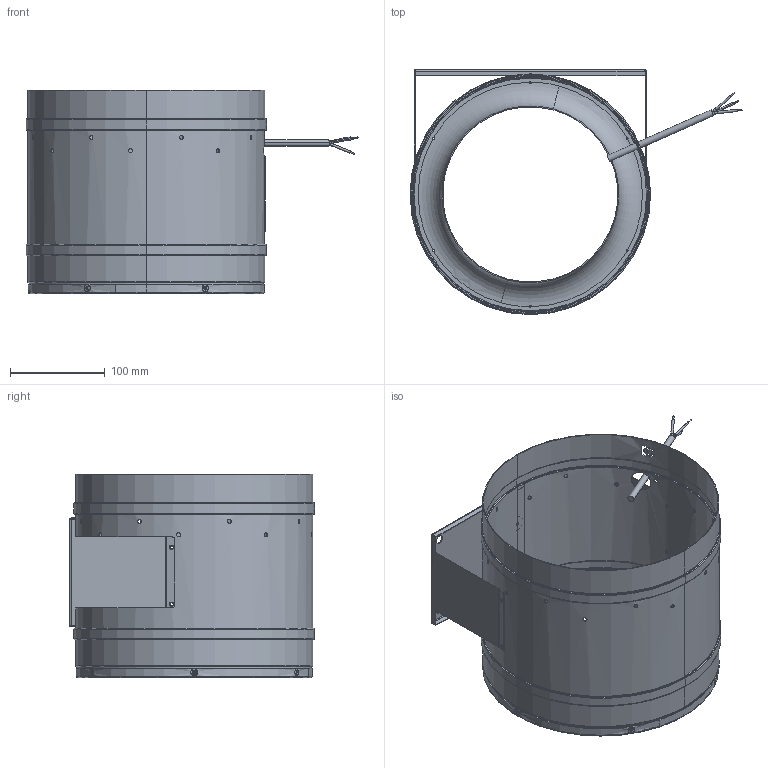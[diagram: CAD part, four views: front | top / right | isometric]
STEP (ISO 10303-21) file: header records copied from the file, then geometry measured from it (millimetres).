
FILE_DESCRIPTION (( 'STEP AP203' ), '1' );
FILE_NAME ('116227-02_EL250E206.STEP', '2013-10-02T06:39:21', ( '' ), ( '' ), 'SwSTEP 2.0', 'SolidWorks 2012', '' );
FILE_SCHEMA (( 'CONFIG_CONTROL_DESIGN' ));
Length unit declared in the file: millimetre
Products named in the file (1): 116227-02_EL250E206
Bounding box: 350.54 x 258.8 x 214.5 mm (x, y, z)
Surface area: 509187.6 mm2 (no closed solid volume)
Topology: 0 solids, 14 shells, 289 faces, 825 edges, 544 vertices
Faces by surface type: cylinder 111, plane 83, bspline 51, torus 36, cone 8
Entity records: 15853 total; most frequent: CARTESIAN_POINT 8510, ORIENTED_EDGE 1480, DIRECTION 1403, EDGE_CURVE 825, AXIS2_PLACEMENT_3D 567, VERTEX_POINT 544, EDGE_LOOP 391, CIRCLE 328
